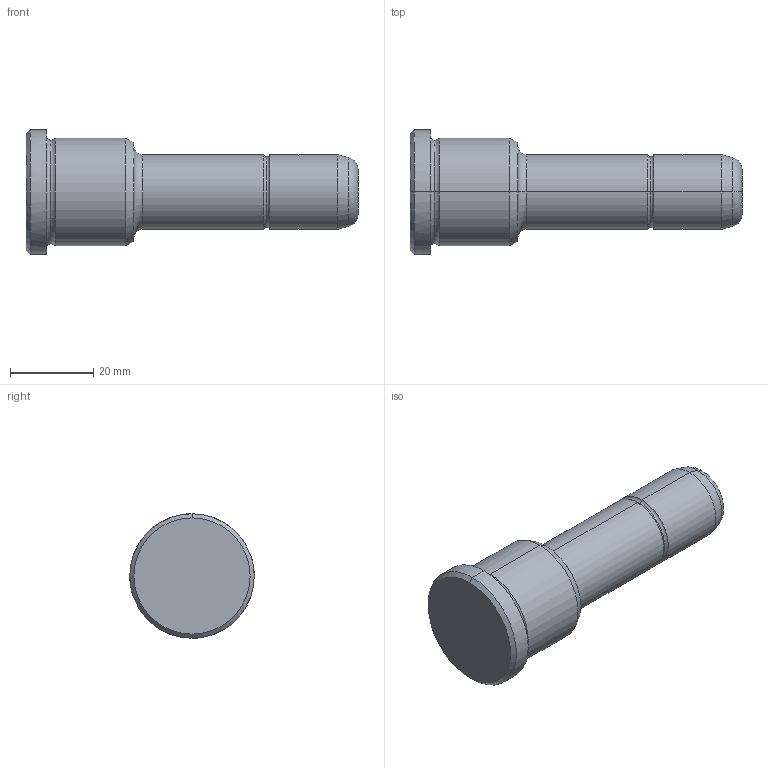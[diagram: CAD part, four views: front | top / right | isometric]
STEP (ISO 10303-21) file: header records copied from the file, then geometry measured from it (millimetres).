
FILE_DESCRIPTION(('CATIA V5 STEP Exchange'),'2;1');
FILE_NAME('C:\Users\Utente\Desktop\IO LAVORO\3D X SITO CF\X SITO\PLASTICA\351\351-18X26X80.stp','2021-08-19T12:48:20+00:00',('none'),('none'),'CATIA Version 5 Release 20 GA (IN-10)','CATIA V5 STEP AP203','none');
FILE_SCHEMA(('CONFIG_CONTROL_DESIGN'));
Length unit declared in the file: millimetre
Products named in the file (1): 351-18X26X80
Bounding box: 80 x 30 x 30 mm (x, y, z)
Volume: 28024.4 mm3; surface area: 6402.5 mm2
Topology: 1 solids, 1 shells, 30 faces, 86 edges, 60 vertices
Faces by surface type: torus 12, cylinder 8, cone 6, plane 4
Entity records: 1112 total; most frequent: CARTESIAN_POINT 289, ORIENTED_EDGE 172, DIRECTION 138, AXIS2_PLACEMENT_3D 95, EDGE_CURVE 86, CIRCLE 64, VERTEX_POINT 60, EDGE_LOOP 32
